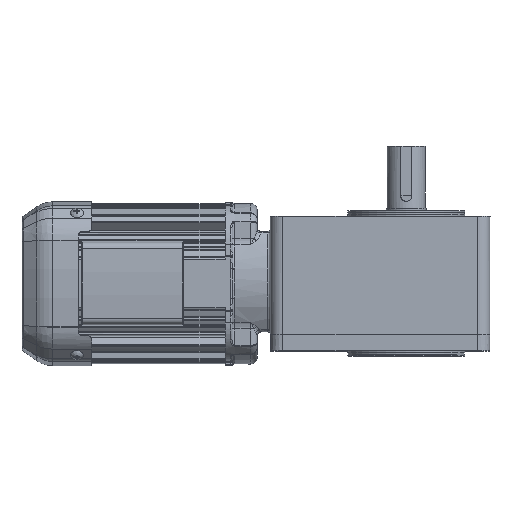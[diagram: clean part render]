
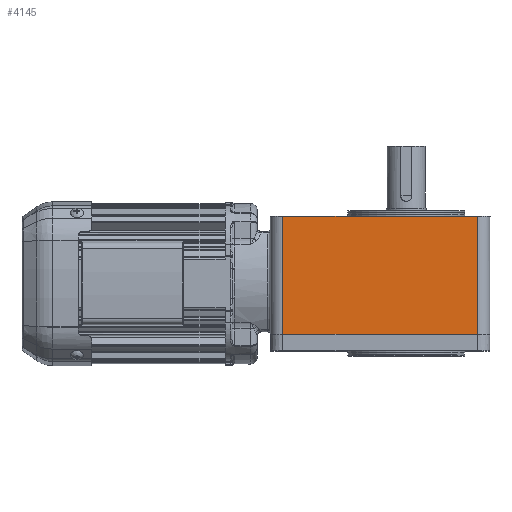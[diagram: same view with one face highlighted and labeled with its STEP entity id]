
A CAD part, top view. The second image highlights one B-rep face of the part: STEP entity #4145.
In plain terms, the highlighted planar face has unit normal (0, 0, 1).
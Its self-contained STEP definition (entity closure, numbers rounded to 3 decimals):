
#4145 = ADVANCED_FACE( '', ( #8565 ), #8566, .T. );
#8565 = FACE_OUTER_BOUND( '', #21446, .T. );
#8566 = PLANE( '', #21447 );
#21446 = EDGE_LOOP( '', ( #33307, #33308, #33309, #33310 ) );
#21447 = AXIS2_PLACEMENT_3D( '', #33311, #33312, #33313 );
#33307 = ORIENTED_EDGE( '', *, *, #34914, .F. );
#33308 = ORIENTED_EDGE( '', *, *, #38021, .T. );
#33309 = ORIENTED_EDGE( '', *, *, #38199, .T. );
#33310 = ORIENTED_EDGE( '', *, *, #38065, .T. );
#33311 = CARTESIAN_POINT( '', ( -22.355, -9.884, 24.5 ) );
#33312 = DIRECTION( '', ( 0., 0., 1. ) );
#33313 = DIRECTION( '', ( 1., 0., 0. ) );
#34914 = EDGE_CURVE( '', #40417, #40419, #40420, .T. );
#38021 = EDGE_CURVE( '', #40417, #44760, #44762, .T. );
#38065 = EDGE_CURVE( '', #41074, #40419, #44810, .T. );
#38199 = EDGE_CURVE( '', #44760, #41074, #44959, .T. );
#40417 = VERTEX_POINT( '', #49045 );
#40419 = VERTEX_POINT( '', #49047 );
#40420 = LINE( '', #49048, #49049 );
#41074 = VERTEX_POINT( '', #50345 );
#44760 = VERTEX_POINT( '', #57541 );
#44762 = LINE( '', #57543, #57544 );
#44810 = B_SPLINE_CURVE_WITH_KNOTS( '', 1, ( #57608, #57609 ), .UNSPECIFIED., .F., .F., ( 2, 2 ), ( 0., 1. ), .UNSPECIFIED. );
#44959 = LINE( '', #57970, #57971 );
#49045 = CARTESIAN_POINT( '', ( -22.355, -10.384, 24.5 ) );
#49047 = CARTESIAN_POINT( '', ( -22.355, -96.384, 24.496 ) );
#49048 = CARTESIAN_POINT( '', ( -22.355, -9.884, 24.5 ) );
#49049 = VECTOR( '', #60311, 1000. );
#50345 = CARTESIAN_POINT( '', ( -164.355, -96.384, 24.496 ) );
#57541 = CARTESIAN_POINT( '', ( -164.355, -10.384, 24.5 ) );
#57543 = CARTESIAN_POINT( '', ( -22.355, -10.384, 24.5 ) );
#57544 = VECTOR( '', #64406, 1000. );
#57608 = CARTESIAN_POINT( '', ( -164.355, -96.384, 24.5 ) );
#57609 = CARTESIAN_POINT( '', ( -22.355, -96.384, 24.5 ) );
#57970 = CARTESIAN_POINT( '', ( -164.355, -9.884, 24.5 ) );
#57971 = VECTOR( '', #64529, 1000. );
#60311 = DIRECTION( '', ( 0., -1., 0. ) );
#64406 = DIRECTION( '', ( -1., 0., 0. ) );
#64529 = DIRECTION( '', ( 0., -1., 0. ) );
